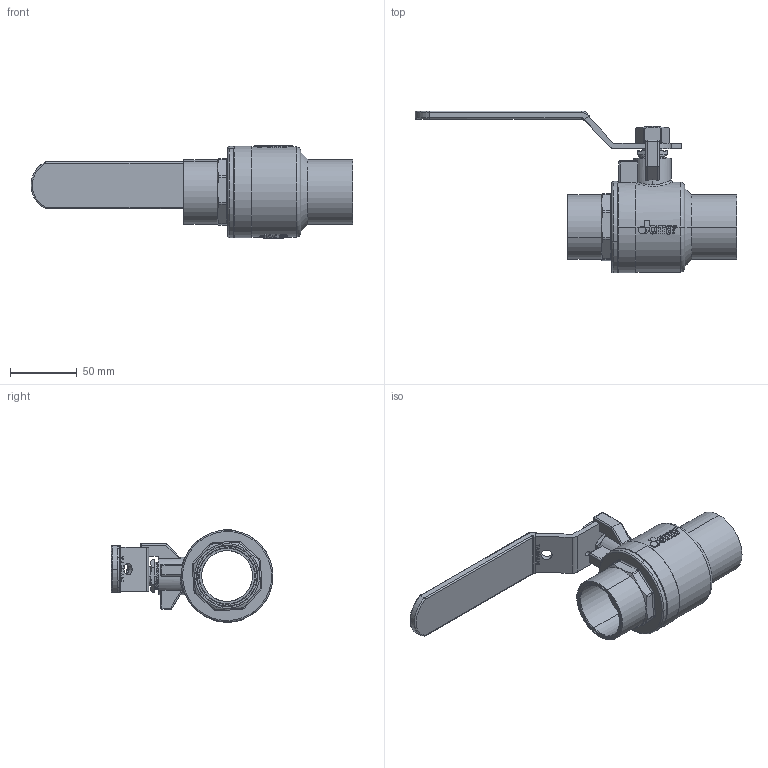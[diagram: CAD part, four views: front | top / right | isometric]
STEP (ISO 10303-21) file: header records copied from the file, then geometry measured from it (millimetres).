
FILE_DESCRIPTION (( 'STEP AP203' ), '1' );
FILE_NAME ('ABL737-µL±¾Âê-1.5''''JOMAR²y»ÖCxC²Õ¦X.STEP', '2026-04-13T03:52:12', ( '' ), ( '' ), 'SwSTEP 2.0', 'SolidWorks 2018', '' );
FILE_SCHEMA (( 'CONFIG_CONTROL_DESIGN' ));
Length unit declared in the file: millimetre
Products named in the file (13): TBL268A; RBL267; EBL208B; BBL737A-1.5''JOMAR球閥-CxC帽蓋-有鉛-端面插溝 -減肉; DN40-DN50-CBL737-無掛鎖把手組合-黃色膠套 S-200CSS; EBL307; BBL737-1.5''''JOMAR球閥體-CxC-有鉛-端面插溝-無LF; DN50-CBL238黃色膠套-S-200CSS; NBL268; EBL208C; ABL737-µL±¾Âê-1.5''''JOMAR²y»ÖCxC²Õ¦X; GBL218; CBL238
Assembly tree (13 placements, depth 3):
  ABL737-µL±¾Âê-1.5''''JOMAR²y»ÖCxC²Õ¦X
    BBL737-1.5''''JOMAR球閥體-CxC-有鉛-端面插溝-無LF
    RBL267
    EBL208C
    GBL218
    EBL208B
    TBL268A
    BBL737A-1.5''JOMAR球閥-CxC帽蓋-有鉛-端面插溝 -減肉
    DN40-DN50-CBL737-無掛鎖把手組合-黃色膠套 S-200CSS
      CBL238
      DN50-CBL238黃色膠套-S-200CSS
    NBL268
    EBL307  x2
Bounding box: 240.55 x 120.96 x 69 mm (x, y, z)
Volume: 213298.3 mm3; surface area: 122021.7 mm2
Topology: 12 solids, 12 shells, 1474 faces, 3887 edges, 2542 vertices
Faces by surface type: plane 582, bspline 490, cylinder 274, cone 76, torus 38, sphere 14
Entity records: 83895 total; most frequent: CARTESIAN_POINT 50368, ORIENTED_EDGE 7698, DIRECTION 4934, EDGE_CURVE 3849, VERTEX_POINT 2522, VECTOR 1958, LINE 1958, EDGE_LOOP 1599
